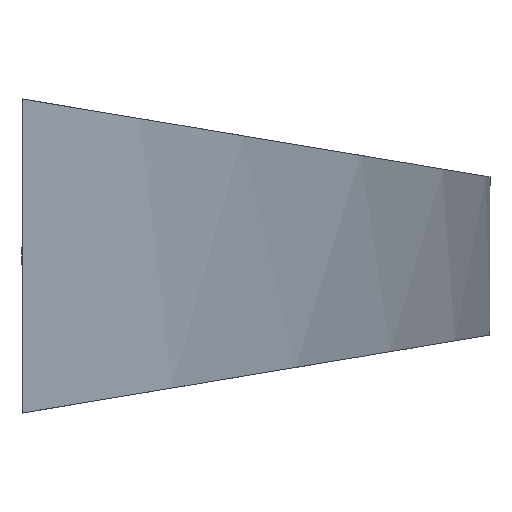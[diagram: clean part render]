
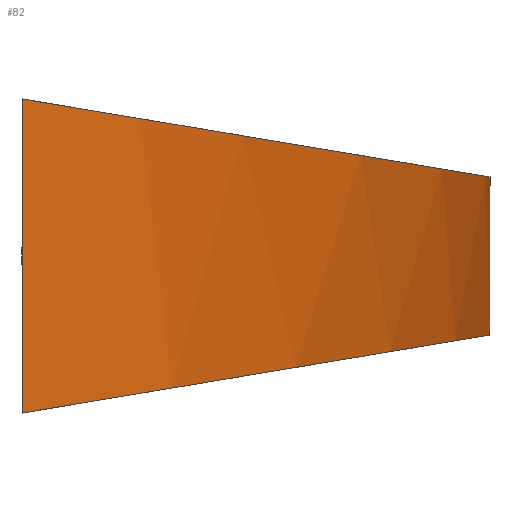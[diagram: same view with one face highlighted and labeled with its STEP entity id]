
A CAD part, left-side view. The second image highlights one B-rep face of the part: STEP entity #82.
In plain terms, the highlighted cylindrical face has radius 115.104 mm (diameter 230.208 mm), a partial arc.
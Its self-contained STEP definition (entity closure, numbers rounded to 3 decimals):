
#82 = ADVANCED_FACE( '', ( #102 ), #103, .T. );
#102 = FACE_OUTER_BOUND( '', #128, .T. );
#103 = CYLINDRICAL_SURFACE( '', #129, 115.104 );
#128 = EDGE_LOOP( '', ( #185, #186, #187, #188 ) );
#129 = AXIS2_PLACEMENT_3D( '', #189, #190, #191 );
#185 = ORIENTED_EDGE( '', *, *, #236, .T. );
#186 = ORIENTED_EDGE( '', *, *, #240, .F. );
#187 = ORIENTED_EDGE( '', *, *, #241, .T. );
#188 = ORIENTED_EDGE( '', *, *, #242, .T. );
#189 = CARTESIAN_POINT( '', ( 64., 85.104, 10. ) );
#190 = DIRECTION( '', ( 0., 0., 1. ) );
#191 = DIRECTION( '', ( -0.673, -0.739, 0. ) );
#236 = EDGE_CURVE( '', #268, #269, #270, .T. );
#240 = EDGE_CURVE( '', #276, #269, #277, .T. );
#241 = EDGE_CURVE( '', #276, #278, #279, .T. );
#242 = EDGE_CURVE( '', #278, #268, #280, .T. );
#268 = VERTEX_POINT( '', #312 );
#269 = VERTEX_POINT( '', #313 );
#270 = ELLIPSE( '', #314, 116.692, 115.104 );
#276 = VERTEX_POINT( '', #322 );
#277 = LINE( '', #323, #324 );
#278 = VERTEX_POINT( '', #325 );
#279 = ELLIPSE( '', #326, 116.692, 115.104 );
#280 = LINE( '', #327, #328 );
#312 = CARTESIAN_POINT( '', ( -13.5, 0., -10. ) );
#313 = CARTESIAN_POINT( '', ( 141.5, 0., -10. ) );
#314 = AXIS2_PLACEMENT_3D( '', #368, #369, #370 );
#322 = CARTESIAN_POINT( '', ( 141.5, 0., 10. ) );
#323 = CARTESIAN_POINT( '', ( 141.5, 0., 10. ) );
#324 = VECTOR( '', #376, 1. );
#325 = CARTESIAN_POINT( '', ( -13.5, 0., 10. ) );
#326 = AXIS2_PLACEMENT_3D( '', #377, #378, #379 );
#327 = CARTESIAN_POINT( '', ( -13.5, 0., 10. ) );
#328 = VECTOR( '', #380, 1. );
#368 = CARTESIAN_POINT( '', ( 64., 85.104, -24.184 ) );
#369 = DIRECTION( '', ( 0., 0.164, 0.986 ) );
#370 = DIRECTION( '', ( 0., -0.986, 0.164 ) );
#376 = DIRECTION( '', ( 0., 0., -1. ) );
#377 = CARTESIAN_POINT( '', ( 64., 85.104, 24.184 ) );
#378 = DIRECTION( '', ( 0., 0.164, -0.986 ) );
#379 = DIRECTION( '', ( 0., -0.986, -0.164 ) );
#380 = DIRECTION( '', ( 0., 0., -1. ) );
